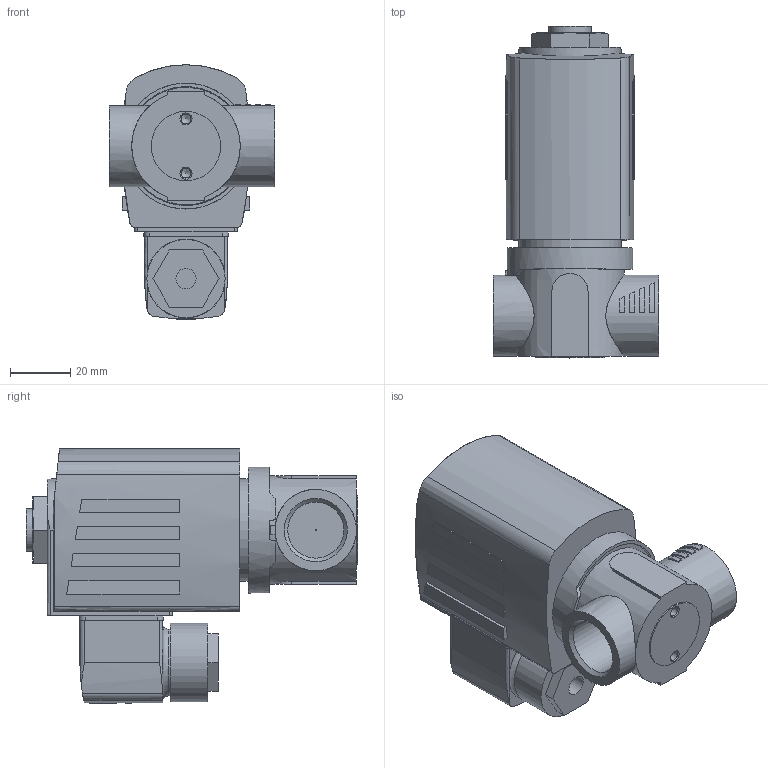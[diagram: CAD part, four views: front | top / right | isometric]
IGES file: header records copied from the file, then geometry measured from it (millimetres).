
Start section: Data from Parasolid IGES Translator 26.0.171, Copyright(c) 2006 Siemens PLM Software. All Rights Reserved.
Global section: file name: 6027-A-10-FKM___FKM-MS-G_1_2-42-230___AC.igs; native system: By Siemens PLM Incorporated; preprocessor: XPlus GENERIC/IGES 26.0.171; author: Noname; organization: Noname; date: 20240325.204840; units: millimetre
Bounding box: 55 x 110.2 x 84.5 mm (x, y, z)
Surface area: 33617.9 mm2 (no closed solid volume)
Topology: 0 solids, 0 shells, 218 faces, 1110 edges, 1091 vertices
Faces by surface type: extrusion 141, revolution 77
